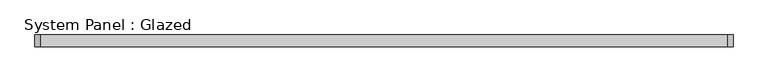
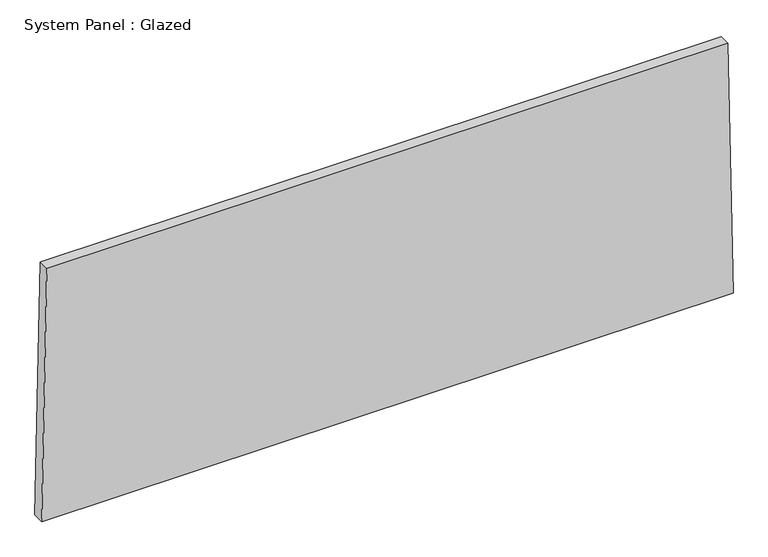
"""IFC4 building model written with IfcOpenShell, lengths in millimetres: plate geometry, System Panel : Glazed."""

import ifcopenshell
import ifcopenshell.guid

model = None  # the IFC model being written
_history = None  # IfcOwnerHistory: only IFC2X3 demands one
_inside = {}  # id of a spatial element -> (the spatial element, [elements in it])
_under = {}  # id of a project, library or spatial element -> (it, [spatial elements below it])
_declared = {}  # id of a project -> (the project, [libraries it declares])
_typed = {}  # id of a type object -> (the type object, [elements of that type])
_made_of = {}  # id of a material, layer set ... -> (it, [elements and type objects made of it])


def new_model(schema):
    """Start an empty IFC model of exactly this schema.

    Asked for "IFC4X3", IfcOpenShell would pick the latest addendum, in which some entities
    have other attributes; the version numbers below select the first issue.
    IFC2X3 requires an IfcOwnerHistory on every rooted entity: one is made here for all.
    """
    global model, _history
    if schema == "IFC4X3":
        model = ifcopenshell.file(schema_version=(4, 3, 0, 0))
    else:
        model = ifcopenshell.file(schema=schema)
    _inside.clear()
    _under.clear()
    _declared.clear()
    _typed.clear()
    _made_of.clear()
    _history = None
    if model.schema == "IFC2X3":
        org = make("IfcOrganization", Name="unknown")
        user = make(
            "IfcPersonAndOrganization",
            ThePerson=make("IfcPerson", FamilyName="unknown"),
            TheOrganization=org,
        )
        app = make(
            "IfcApplication",
            ApplicationDeveloper=org,
            Version="unknown",
            ApplicationFullName="unknown",
            ApplicationIdentifier="unknown",
        )
        _history = make(
            "IfcOwnerHistory",
            OwningUser=user,
            OwningApplication=app,
            ChangeAction="ADDED",
            CreationDate=0,
        )
    return model


def make(cls, **values):
    """One entity of the class cls with the attributes given. An attribute that is None is left unset."""
    return model.create_entity(
        cls, **{name: value for name, value in values.items() if value is not None}
    )


def rooted(cls, **values):
    """An entity with a GlobalId (a new one), such as an element, a storey or a relation."""
    return make(cls, GlobalId=ifcopenshell.guid.new(), OwnerHistory=_history, **values)


def si_unit(unit_type, name, prefix=None):
    """IfcSIUnit, for example si_unit("LENGTHUNIT", "METRE", prefix="MILLI")."""
    return make("IfcSIUnit", UnitType=unit_type, Prefix=prefix, Name=name)


def assignment(units):
    """IfcUnitAssignment: the units of a project."""
    return None if units is None else make("IfcUnitAssignment", Units=units)


def point(xyz):
    """IfcCartesianPoint."""
    return None if xyz is None else make("IfcCartesianPoint", Coordinates=xyz)


def direction(xyz):
    """IfcDirection."""
    return None if xyz is None else make("IfcDirection", DirectionRatios=xyz)


def frame(location, z_axis=None, x_axis=None):
    """IfcAxis2Placement3D, a coordinate frame: its origin and axes. An axis left out is left unset."""
    return make(
        "IfcAxis2Placement3D",
        Location=point(location),
        Axis=direction(z_axis),
        RefDirection=direction(x_axis),
    )


def origin():
    """The frame at (0, 0, 0) with its axes left unset."""
    return frame((0.0, 0.0, 0.0))


def place(relative_to, where):
    """IfcLocalPlacement: puts the frame where relative to a parent placement (None: the world)."""
    return make(
        "IfcLocalPlacement", PlacementRelTo=relative_to, RelativePlacement=where
    )


def context(
    kind, dimensions, precision=None, world=None, true_north=None, identifier=None
):
    """IfcGeometricRepresentationContext, for example the 3D "Model" context."""
    return make(
        "IfcGeometricRepresentationContext",
        ContextIdentifier=identifier,
        ContextType=kind,
        CoordinateSpaceDimension=dimensions,
        Precision=precision,
        WorldCoordinateSystem=world,
        TrueNorth=true_north,
    )


def project(units=None, contexts=None):
    """IfcProject with its units and contexts."""
    return rooted(
        "IfcProject",
        Name="project",
        RepresentationContexts=contexts,
        UnitsInContext=assignment(units),
    )


def spatial(cls, under=None, at=None, **own):
    """A site, building, storey or space (cls), placed at a placement, below another one or the project."""
    s = rooted(cls, ObjectPlacement=at, **own)
    if under is not None:
        _under.setdefault(under.id(), (under, []))[1].append(s)
    return s


def polyline(points):
    """IfcPolyline through the points."""
    return make("IfcPolyline", Points=[point(p) for p in points])


def outline(outer, holes=None, kind="AREA"):
    """IfcArbitraryClosedProfileDef: a profile drawn as a closed curve; with holes, ...WithVoids."""
    if holes is None:
        return make("IfcArbitraryClosedProfileDef", ProfileType=kind, OuterCurve=outer)
    return make(
        "IfcArbitraryProfileDefWithVoids",
        ProfileType=kind,
        OuterCurve=outer,
        InnerCurves=holes,
    )


def extrude(swept, where, along, depth):
    """IfcExtrudedAreaSolid: the profile swept, set in the frame where, extruded along a direction by depth."""
    return make(
        "IfcExtrudedAreaSolid",
        SweptArea=swept,
        Position=where,
        ExtrudedDirection=direction(along),
        Depth=depth,
    )


def shape(context_of_items, identifier, shape_type, items):
    """IfcShapeRepresentation: the items that make up one representation, for example the "Body"."""
    return make(
        "IfcShapeRepresentation",
        ContextOfItems=context_of_items,
        RepresentationIdentifier=identifier,
        RepresentationType=shape_type,
        Items=items,
    )


def source(mapping_origin, context_of_items, identifier, shape_type, items):
    """IfcRepresentationMap: a shape defined once, which mapped items show again and again."""
    return make(
        "IfcRepresentationMap",
        MappingOrigin=mapping_origin,
        MappedRepresentation=shape(context_of_items, identifier, shape_type, items),
    )


def transform(
    local_origin,
    x_axis=None,
    y_axis=None,
    z_axis=None,
    scale=None,
    scale2=None,
    scale3=None,
    uniform=True,
):
    """IfcCartesianTransformationOperator3D, or its non-uniform kind. x_axis, y_axis, z_axis: its Axis1, 2, 3."""
    if uniform:
        return make(
            "IfcCartesianTransformationOperator3D",
            Axis1=direction(x_axis),
            Axis2=direction(y_axis),
            LocalOrigin=point(local_origin),
            Scale=scale,
            Axis3=direction(z_axis),
        )
    return make(
        "IfcCartesianTransformationOperator3DnonUniform",
        Axis1=direction(x_axis),
        Axis2=direction(y_axis),
        LocalOrigin=point(local_origin),
        Scale=scale,
        Axis3=direction(z_axis),
        Scale2=scale2,
        Scale3=scale3,
    )


def mapped(mapping_source, mapping_target):
    """IfcMappedItem: shows the shape of a source again, moved by a transform."""
    return make(
        "IfcMappedItem", MappingSource=mapping_source, MappingTarget=mapping_target
    )


def made_of(thing, what):
    """Note that an element or type object is made of a material, layer set ...; save() writes the relation."""
    if what is not None:
        _made_of.setdefault(what.id(), (what, []))[1].append(thing)
    return thing


def element(
    cls,
    number,
    at=None,
    inside=None,
    cuts=None,
    type_object=None,
    material=None,
    context=None,
    identifier="Body",
    shape_type=None,
    held_by="IfcProductDefinitionShape",
    body=None,
    shapes=None,
    **own,
):
    """One element of the class cls, such as IfcWall. Its Tag is "e" and its number.

    at: its placement. inside: the storey or other place that contains it. cuts: it is an
    opening in that element (IfcRelVoidsElement). A single representation is given by context,
    identifier, shape_type and body (its items); several are given by shapes. held_by: the class
    of the entity that holds the representations. save() writes the other relations.
    """
    e = rooted(cls, Tag="e%d" % number, ObjectPlacement=at, **own)
    if body is not None:
        shapes = [shape(context, identifier, shape_type, body)]
    if shapes is not None:
        e.Representation = make(held_by, Representations=shapes)
    if inside is not None:
        _inside.setdefault(inside.id(), (inside, []))[1].append(e)
    if cuts is not None:
        rooted(
            "IfcRelVoidsElement", RelatingBuildingElement=cuts, RelatedOpeningElement=e
        )
    if type_object is not None:
        _typed.setdefault(type_object.id(), (type_object, []))[1].append(e)
    return made_of(e, material)


def aggregate(whole, parts):
    """IfcRelAggregates: a whole, such as a stair, and the parts it consists of."""
    return rooted("IfcRelAggregates", RelatingObject=whole, RelatedObjects=parts)


def save(model, path):
    """Write the relations noted so far, then the file.

    IfcRelAggregates (storeys below a building ...), IfcRelContainedInSpatialStructure (elements
    in a storey), IfcRelDefinesByType, IfcRelAssociatesMaterial and IfcRelDeclares: one each for
    every whole, place, type object, material and project.
    """
    for whole, parts in _under.values():
        aggregate(whole, parts)
    for where, things in _inside.values():
        rooted(
            "IfcRelContainedInSpatialStructure",
            RelatedElements=things,
            RelatingStructure=where,
        )
    for kind, things in _typed.values():
        rooted("IfcRelDefinesByType", RelatedObjects=things, RelatingType=kind)
    for what, things in _made_of.values():
        rooted("IfcRelAssociatesMaterial", RelatedObjects=things, RelatingMaterial=what)
    for by, libraries in _declared.values():
        rooted("IfcRelDeclares", RelatingContext=by, RelatedDefinitions=libraries)
    model.write(path)


def system_panel_glazed_652ad043(model_context):
    return source(origin(), model_context, "Body", "SweptSolid", [
        extrude(outline(polyline([(0.0, -759.2644702), (0.0, 759.2644702), (584.0841669, 747.8765053), (584.0841669, -747.8765053), (0.0, -759.2644702)])), frame((0.0, -44.45, 0.0), z_axis=(0.0, 1.0, 0.0), x_axis=(0.0, 0.0, 1.0)), (0.0, 0.0, 1.0), 25.4),
    ])


if __name__ == "__main__":
    model = new_model("IFC4")
    model_context = context("Model", 3, world=origin())
    ifc_project = project(units=[si_unit("LENGTHUNIT", "METRE", prefix="MILLI")], contexts=[model_context])
    site = spatial("IfcSite", under=ifc_project)
    building = spatial("IfcBuilding", under=site)
    placement = place(None, origin())
    system_panel_glazed_shape = system_panel_glazed_652ad043(model_context)
    element("IfcPlate", 1, ObjectType="System Panel : Glazed", at=placement, inside=building, context=model_context, shape_type="MappedRepresentation", body=[
        mapped(system_panel_glazed_shape, transform((0.0, 0.0, 0.0), x_axis=(1.0, 0.0, 0.0), y_axis=(0.0, 1.0, 0.0), z_axis=(0.0, 0.0, 1.0))),
    ])
    save(model, "model.ifc")
